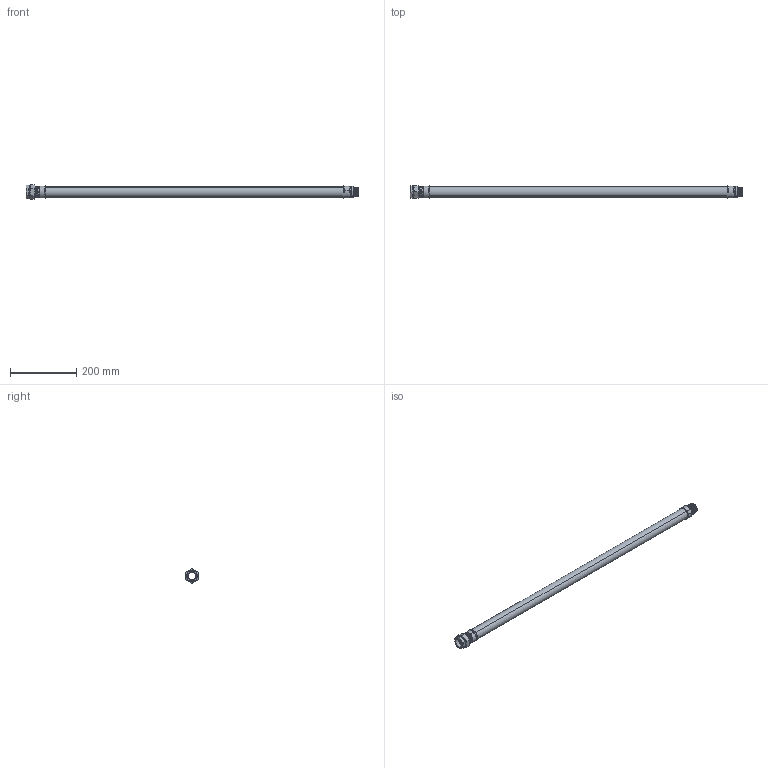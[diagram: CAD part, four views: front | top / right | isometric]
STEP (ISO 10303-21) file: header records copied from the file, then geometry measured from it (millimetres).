
FILE_DESCRIPTION (( 'STEP AP203' ), '1' );
FILE_NAME ('KP_T25-10S.step', '2011-08-08T11:46:28', ( '' ), ( '' ), 'SwSTEP 2.0', 'SolidWorks 2011', '' );
FILE_SCHEMA (( 'CONFIG_CONTROL_DESIGN' ));
Length unit declared in the file: millimetre
Products named in the file (1): KP_T25-10S
Bounding box: 1000 x 38.75 x 44.74 mm (x, y, z)
Volume: 439925.2 mm3; surface area: 192331.7 mm2
Topology: 3 solids, 3 shells, 163 faces, 393 edges, 248 vertices
Faces by surface type: cone 75, plane 48, cylinder 32, bspline 8
Entity records: 18352 total; most frequent: CARTESIAN_POINT 14702, ORIENTED_EDGE 786, DIRECTION 657, EDGE_CURVE 393, AXIS2_PLACEMENT_3D 257, VERTEX_POINT 248, EDGE_LOOP 181, FACE_OUTER_BOUND 163
